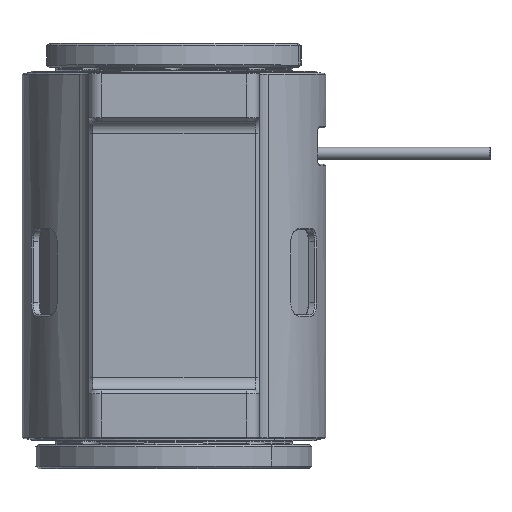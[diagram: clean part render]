
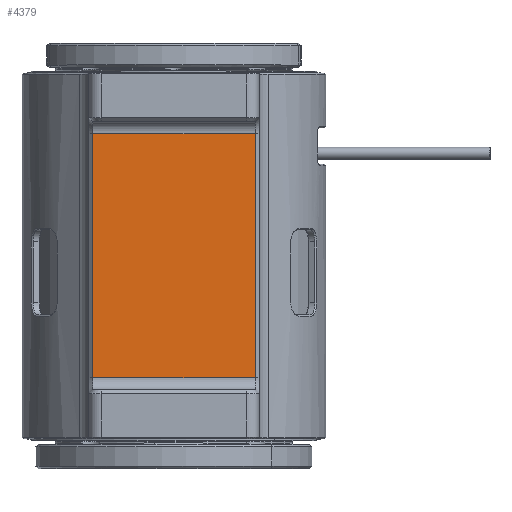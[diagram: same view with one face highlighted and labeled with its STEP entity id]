
A CAD part, top view. The second image highlights one B-rep face of the part: STEP entity #4379.
In plain terms, the highlighted planar face has unit normal (0, 0, 1).
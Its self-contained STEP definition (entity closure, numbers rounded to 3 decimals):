
#606=DIRECTION('',(-1.,0.,0.));
#607=VECTOR('',#606,13.4);
#608=CARTESIAN_POINT('',(6.7,25.1,15.));
#609=LINE('',#608,#607);
#614=DIRECTION('',(0.,-1.,0.));
#615=VECTOR('',#614,20.1);
#616=CARTESIAN_POINT('',(6.7,25.1,15.));
#617=LINE('',#616,#615);
#618=DIRECTION('',(0.,1.,0.));
#619=VECTOR('',#618,20.1);
#620=CARTESIAN_POINT('',(-6.7,5.,15.));
#621=LINE('',#620,#619);
#639=DIRECTION('',(1.,0.,0.));
#640=VECTOR('',#639,13.4);
#641=CARTESIAN_POINT('',(-6.7,5.,15.));
#642=LINE('',#641,#640);
#3340=CARTESIAN_POINT('',(6.7,25.1,15.));
#3341=VERTEX_POINT('',#3340);
#3342=CARTESIAN_POINT('',(-6.7,25.1,15.));
#3343=VERTEX_POINT('',#3342);
#3344=CARTESIAN_POINT('',(6.7,5.,15.));
#3345=VERTEX_POINT('',#3344);
#3346=CARTESIAN_POINT('',(-6.7,5.,15.));
#3347=VERTEX_POINT('',#3346);
#4365=CARTESIAN_POINT('',(-7.,0.,15.));
#4366=DIRECTION('',(0.,0.,1.));
#4367=DIRECTION('',(1.,0.,0.));
#4368=AXIS2_PLACEMENT_3D('',#4365,#4366,#4367);
#4369=PLANE('',#4368);
#4371=ORIENTED_EDGE('',*,*,#4370,.T.);
#4373=ORIENTED_EDGE('',*,*,#4372,.F.);
#4375=ORIENTED_EDGE('',*,*,#4374,.T.);
#4376=ORIENTED_EDGE('',*,*,#4357,.F.);
#4377=EDGE_LOOP('',(#4371,#4373,#4375,#4376));
#4378=FACE_OUTER_BOUND('',#4377,.F.);
#4379=ADVANCED_FACE('',(#4378),#4369,.T.);
#4357=EDGE_CURVE('',#3341,#3343,#609,.T.);
#4370=EDGE_CURVE('',#3341,#3345,#617,.T.);
#4372=EDGE_CURVE('',#3347,#3345,#642,.T.);
#4374=EDGE_CURVE('',#3347,#3343,#621,.T.);
